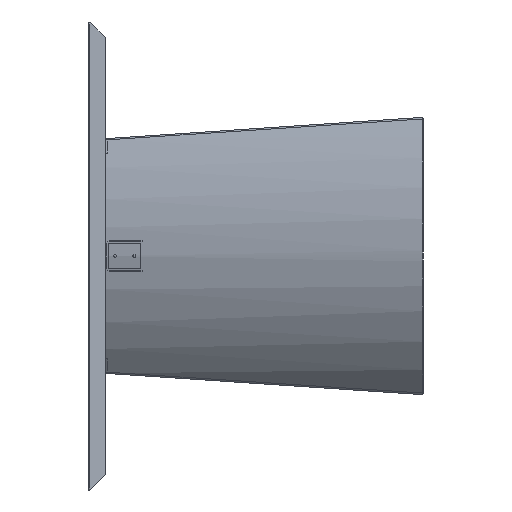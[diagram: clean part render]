
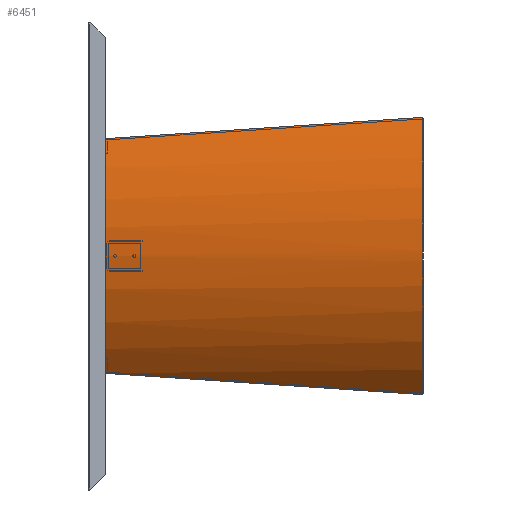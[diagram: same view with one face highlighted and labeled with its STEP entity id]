
A CAD part, left-side view. The second image highlights one B-rep face of the part: STEP entity #6451.
In plain terms, the highlighted cylindrical face has radius 455 mm (diameter 910 mm), a partial arc.
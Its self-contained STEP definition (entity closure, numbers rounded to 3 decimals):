
#87 = CARTESIAN_POINT ( 'NONE',  ( 126.14, 1.243, -3.458 ) ) ;
#329 = CARTESIAN_POINT ( 'NONE',  ( 265.753, 720., -274.535 ) ) ;
#385 = CARTESIAN_POINT ( 'NONE',  ( 298.867, 241.995, -177.363 ) ) ;
#849 = EDGE_CURVE ( 'NONE', #10900, #7034, #8266, .T. ) ;
#1260 = CARTESIAN_POINT ( 'NONE',  ( 314.022, 0.906, -129.942 ) ) ;
#1442 = ORIENTED_EDGE ( 'NONE', *, *, #6447, .T. ) ;
#1718 = VERTEX_POINT ( 'NONE', #5097 ) ;
#1926 = VERTEX_POINT ( 'NONE', #6937 ) ;
#1993 = CARTESIAN_POINT ( 'NONE',  ( -265.753, 720., -274.535 ) ) ;
#2008 = AXIS2_PLACEMENT_3D ( 'NONE', #3357, #4342, #7837 ) ;
#2300 = CARTESIAN_POINT ( 'NONE',  ( 282.752, 482.074, -225.637 ) ) ;
#2812 = ORIENTED_EDGE ( 'NONE', *, *, #10100, .T. ) ;
#3278 = DIRECTION ( 'NONE',  ( 0., -0.25, -0.968 ) ) ;
#3306 = ORIENTED_EDGE ( 'NONE', *, *, #10090, .F. ) ;
#3339 = CARTESIAN_POINT ( 'NONE',  ( 0., 690.447, -648.367 ) ) ;
#3357 = CARTESIAN_POINT ( 'NONE',  ( 0., -112.631, -440.677 ) ) ;
#3508 = CARTESIAN_POINT ( 'NONE',  ( -282.752, 482.074, -225.637 ) ) ;
#3623 = CARTESIAN_POINT ( 'NONE',  ( 231.469, 1.123, -48.677 ) ) ;
#3833 = CARTESIAN_POINT ( 'NONE',  ( 0., 720., -186.04 ) ) ;
#3852 = CIRCLE ( 'NONE', #2008, 455. ) ;
#3948 = ORIENTED_EDGE ( 'NONE', *, *, #10932, .F. ) ;
#4260 = DIRECTION ( 'NONE',  ( 0., -0.968, 0.25 ) ) ;
#4342 = DIRECTION ( 'NONE',  ( 0., -0.968, 0.25 ) ) ;
#4378 = CARTESIAN_POINT ( 'NONE',  ( -265.753, 720., -274.535 ) ) ;
#4677 =( BOUNDED_CURVE ( )  B_SPLINE_CURVE ( 3, ( #3833, #5612, #10967, #1993 ),
 .UNSPECIFIED., .F., .F. ) 
 B_SPLINE_CURVE_WITH_KNOTS ( ( 4, 4 ),
 ( 0., 0.624 ),
 .UNSPECIFIED. ) 
 CURVE ( )  GEOMETRIC_REPRESENTATION_ITEM ( )  RATIONAL_B_SPLINE_CURVE ( ( 1., 0.968, 0.968, 1. ) ) 
 REPRESENTATION_ITEM ( '' )  );
#5000 = ORIENTED_EDGE ( 'NONE', *, *, #11368, .T. ) ;
#5002 = CARTESIAN_POINT ( 'NONE',  ( -12.104, 1.251, -0.325 ) ) ;
#5097 = CARTESIAN_POINT ( 'NONE',  ( -314.022, 0.906, -129.942 ) ) ;
#5422 = CARTESIAN_POINT ( 'NONE',  ( 0., 720., -186.04 ) ) ;
#5612 = CARTESIAN_POINT ( 'NONE',  ( -96.167, 720., -186.04 ) ) ;
#5770 = CARTESIAN_POINT ( 'NONE',  ( 265.753, 720., -274.535 ) ) ;
#5855 = CARTESIAN_POINT ( 'NONE',  ( -314.022, 0.906, -129.942 ) ) ;
#5915 = CARTESIAN_POINT ( 'NONE',  ( -126.14, 1.243, -3.458 ) ) ;
#6147 = CARTESIAN_POINT ( 'NONE',  ( 314.022, 0.906, -129.942 ) ) ;
#6447 = EDGE_CURVE ( 'NONE', #1718, #10739, #6900, .T. ) ;
#6451 = ADVANCED_FACE ( 'NONE', ( #7634 ), #8496, .T. ) ;
#6585 = VERTEX_POINT ( 'NONE', #4378 ) ;
#6591 = ORIENTED_EDGE ( 'NONE', *, *, #8653, .T. ) ;
#6727 = VERTEX_POINT ( 'NONE', #6147 ) ;
#6900 =( BOUNDED_CURVE ( )  B_SPLINE_CURVE ( 3, ( #5855, #9370, #5915, #5002 ),
 .UNSPECIFIED., .F., .T. ) 
 B_SPLINE_CURVE_WITH_KNOTS ( ( 4, 4 ),
 ( 5.521, 6.257 ),
 .UNSPECIFIED. ) 
 CURVE ( )  GEOMETRIC_REPRESENTATION_ITEM ( )  RATIONAL_B_SPLINE_CURVE ( ( 1., 0.955, 0.955, 1. ) ) 
 REPRESENTATION_ITEM ( '' )  );
#6937 = CARTESIAN_POINT ( 'NONE',  ( 12.104, 1.251, -0.325 ) ) ;
#7012 = CARTESIAN_POINT ( 'NONE',  ( -265.753, 720., -274.535 ) ) ;
#7034 = VERTEX_POINT ( 'NONE', #9355 ) ;
#7634 = FACE_OUTER_BOUND ( 'NONE', #10113, .T. ) ;
#7825 = AXIS2_PLACEMENT_3D ( 'NONE', #3339, #4260, #3278 ) ;
#7837 = DIRECTION ( 'NONE',  ( -1., 0., 0. ) ) ;
#7985 = CARTESIAN_POINT ( 'NONE',  ( 12.104, 1.251, -0.325 ) ) ;
#8062 = CARTESIAN_POINT ( 'NONE',  ( 187.694, 720., -216.518 ) ) ;
#8266 =( BOUNDED_CURVE ( )  B_SPLINE_CURVE ( 3, ( #5770, #8062, #8747, #5422 ),
 .UNSPECIFIED., .F., .T. ) 
 B_SPLINE_CURVE_WITH_KNOTS ( ( 4, 4 ),
 ( 5.659, 6.283 ),
 .UNSPECIFIED. ) 
 CURVE ( )  GEOMETRIC_REPRESENTATION_ITEM ( )  RATIONAL_B_SPLINE_CURVE ( ( 1., 0.968, 0.968, 1. ) ) 
 REPRESENTATION_ITEM ( '' )  );
#8402 = CARTESIAN_POINT ( 'NONE',  ( 265.753, 720., -274.535 ) ) ;
#8496 = CYLINDRICAL_SURFACE ( 'NONE', #7825, 455. ) ;
#8653 = EDGE_CURVE ( 'NONE', #7034, #6585, #4677, .T. ) ;
#8747 = CARTESIAN_POINT ( 'NONE',  ( 96.167, 720., -186.04 ) ) ;
#8891 =( BOUNDED_CURVE ( )  B_SPLINE_CURVE ( 3, ( #10515, #10119, #3508, #7012 ),
 .UNSPECIFIED., .F., .F. ) 
 B_SPLINE_CURVE_WITH_KNOTS ( ( 4, 4 ),
 ( 1.582, 1.719 ),
 .UNSPECIFIED. ) 
 CURVE ( )  GEOMETRIC_REPRESENTATION_ITEM ( )  RATIONAL_B_SPLINE_CURVE ( ( 1., 0.998, 0.998, 1. ) ) 
 REPRESENTATION_ITEM ( '' )  );
#9355 = CARTESIAN_POINT ( 'NONE',  ( 0., 720., -186.04 ) ) ;
#9370 = CARTESIAN_POINT ( 'NONE',  ( -231.469, 1.123, -48.677 ) ) ;
#10049 =( BOUNDED_CURVE ( )  B_SPLINE_CURVE ( 3, ( #7985, #87, #3623, #10630 ),
 .UNSPECIFIED., .F., .F. ) 
 B_SPLINE_CURVE_WITH_KNOTS ( ( 4, 4 ),
 ( 0.027, 0.762 ),
 .UNSPECIFIED. ) 
 CURVE ( )  GEOMETRIC_REPRESENTATION_ITEM ( )  RATIONAL_B_SPLINE_CURVE ( ( 1., 0.955, 0.955, 1. ) ) 
 REPRESENTATION_ITEM ( '' )  );
#10090 = EDGE_CURVE ( 'NONE', #1718, #6585, #8891, .T. ) ;
#10100 = EDGE_CURVE ( 'NONE', #1926, #6727, #10049, .T. ) ;
#10113 = EDGE_LOOP ( 'NONE', ( #10474, #6591, #3306, #1442, #3948, #2812, #5000 ) ) ;
#10119 = CARTESIAN_POINT ( 'NONE',  ( -298.867, 241.995, -177.363 ) ) ;
#10474 = ORIENTED_EDGE ( 'NONE', *, *, #849, .T. ) ;
#10515 = CARTESIAN_POINT ( 'NONE',  ( -314.022, 0.906, -129.942 ) ) ;
#10630 = CARTESIAN_POINT ( 'NONE',  ( 314.022, 0.906, -129.942 ) ) ;
#10739 = VERTEX_POINT ( 'NONE', #10841 ) ;
#10841 = CARTESIAN_POINT ( 'NONE',  ( -12.104, 1.251, -0.325 ) ) ;
#10900 = VERTEX_POINT ( 'NONE', #8402 ) ;
#10932 = EDGE_CURVE ( 'NONE', #1926, #10739, #3852, .T. ) ;
#10967 = CARTESIAN_POINT ( 'NONE',  ( -187.694, 720., -216.518 ) ) ;
#11296 =( BOUNDED_CURVE ( )  B_SPLINE_CURVE ( 3, ( #1260, #385, #2300, #329 ),
 .UNSPECIFIED., .F., .F. ) 
 B_SPLINE_CURVE_WITH_KNOTS ( ( 4, 4 ),
 ( 1.582, 1.719 ),
 .UNSPECIFIED. ) 
 CURVE ( )  GEOMETRIC_REPRESENTATION_ITEM ( )  RATIONAL_B_SPLINE_CURVE ( ( 1., 0.998, 0.998, 1. ) ) 
 REPRESENTATION_ITEM ( '' )  );
#11368 = EDGE_CURVE ( 'NONE', #6727, #10900, #11296, .T. ) ;
